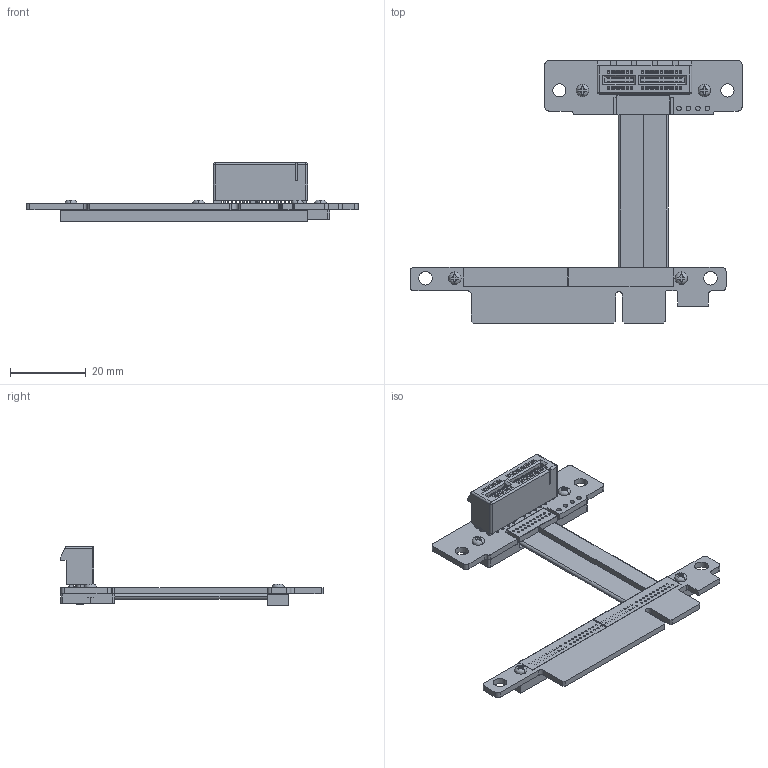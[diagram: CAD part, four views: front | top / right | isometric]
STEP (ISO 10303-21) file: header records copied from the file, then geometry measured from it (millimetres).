
FILE_DESCRIPTION(('Open CASCADE Model'),'2;1');
FILE_NAME('Open CASCADE Shape Model','2020-03-21T03:16:40',('Author'),( 'Open CASCADE'),'Open CASCADE STEP processor 6.8','Open CASCADE 6.8' ,'Unknown');
FILE_SCHEMA(('AUTOMOTIVE_DESIGN { 1 0 10303 214 1 1 1 1 }'));
Length unit declared in the file: millimetre
Products named in the file (15): PCB; Board; Open CASCADE STEP translator 6.8 28.1.1; Free-Models; Hexagon_nut_ISO_4032_(DIN_934)_-_M2_RGB9411503; G0033_RGB9411503; RP11R-PAD; TE_PCIe_Express_x1_(2.3mm_Pins)_RGB4404530; PCIe_Body_PCIe_x1; Pins_Internal_Pin_(Short); Pins_External_Pin_(Short); Tape14x5_RGB0; Tape28x5_RGB0; R8S-PAD-20170526; cable20-43
Assembly tree (55 placements, depth 4):
  PCB
    Board
      Open CASCADE STEP translator 6.8 28.1.1
    Free-Models
      Hexagon_nut_ISO_4032_(DIN_934)_-_M2_RGB9411503  x4
      G0033_RGB9411503  x4
      RP11R-PAD
      TE_PCIe_Express_x1_(2.3mm_Pins)_RGB4404530
        PCIe_Body_PCIe_x1
        Pins_Internal_Pin_(Short)  x18
        Pins_External_Pin_(Short)  x18
      Tape14x5_RGB0
      Tape28x5_RGB0  x2
      R8S-PAD-20170526
      cable20-43
Bounding box: 87.85 x 69.47 x 15.55 mm (x, y, z)
Volume: 6488.9 mm3; surface area: 14433.2 mm2
Topology: 92 solids, 92 shells, 2270 faces, 6106 edges, 4005 vertices
Faces by surface type: plane 1227, cylinder 901, torus 80, cone 52, revolution 8, sphere 2
Full cylindrical faces by diameter (mm): 0.6 x100, 0.7 x36, 1.2 x4, 1.6 x35, 2 x4, 2.2 x8, 2.35 x2, 2.4 x2, 3.5 x2, 3.6 x2, 4 x2, 4.8 x2
Entity records: 43040 total; most frequent: CARTESIAN_POINT 7009, DIRECTION 6935, ORIENTED_EDGE 6640, EDGE_CURVE 3320, AXIS2_PLACEMENT_3D 2405, VERTEX_POINT 2161, LINE 2123, VECTOR 2123
